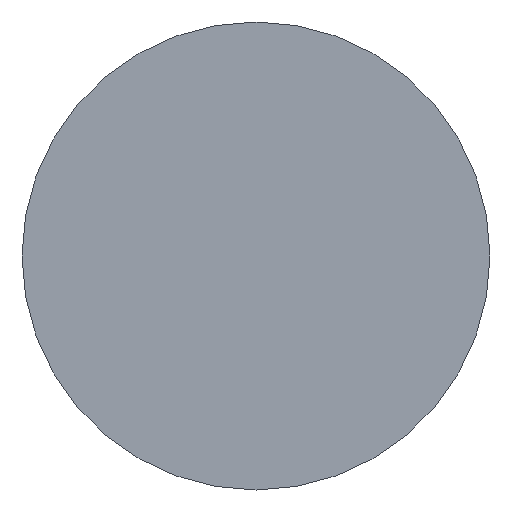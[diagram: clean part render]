
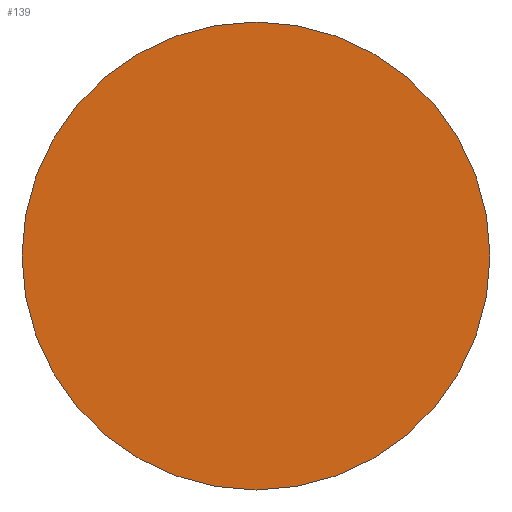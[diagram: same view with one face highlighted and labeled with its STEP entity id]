
A CAD part, left-side view. The second image highlights one B-rep face of the part: STEP entity #139.
In plain terms, the highlighted planar face has unit normal (-1, 0, 0).
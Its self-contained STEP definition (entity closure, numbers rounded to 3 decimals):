
#31 = CYLINDRICAL_SURFACE('',#32,1.9);
#32 = AXIS2_PLACEMENT_3D('',#33,#34,#35);
#33 = CARTESIAN_POINT('',(-54.1,28.,244.5));
#34 = DIRECTION('',(1.,0.,0.));
#35 = DIRECTION('',(0.,0.,1.));
#56 = VERTEX_POINT('',#57);
#57 = CARTESIAN_POINT('',(-54.1,28.,242.6));
#77 = EDGE_CURVE('',#56,#56,#78,.T.);
#78 = SURFACE_CURVE('',#79,(#84,#91),.PCURVE_S1.);
#79 = CIRCLE('',#80,1.9);
#80 = AXIS2_PLACEMENT_3D('',#81,#82,#83);
#81 = CARTESIAN_POINT('',(-54.1,28.,244.5));
#82 = DIRECTION('',(1.,-0.,0.));
#83 = DIRECTION('',(0.,0.,-1.));
#84 = PCURVE('',#31,#85);
#85 = DEFINITIONAL_REPRESENTATION('',(#86),#90);
#86 = LINE('',#87,#88);
#87 = CARTESIAN_POINT('',(3.142,0.));
#88 = VECTOR('',#89,1.);
#89 = DIRECTION('',(1.,0.));
#90 = ( GEOMETRIC_REPRESENTATION_CONTEXT(2) 
PARAMETRIC_REPRESENTATION_CONTEXT() REPRESENTATION_CONTEXT('2D SPACE',''
  ) );
#91 = PCURVE('',#92,#97);
#92 = PLANE('',#93);
#93 = AXIS2_PLACEMENT_3D('',#94,#95,#96);
#94 = CARTESIAN_POINT('',(-54.1,28.,244.5));
#95 = DIRECTION('',(1.,0.,0.));
#96 = DIRECTION('',(0.,0.,1.));
#97 = DEFINITIONAL_REPRESENTATION('',(#98),#102);
#98 = CIRCLE('',#99,1.9);
#99 = AXIS2_PLACEMENT_2D('',#100,#101);
#100 = CARTESIAN_POINT('',(0.,0.));
#101 = DIRECTION('',(-1.,0.));
#102 = ( GEOMETRIC_REPRESENTATION_CONTEXT(2) 
PARAMETRIC_REPRESENTATION_CONTEXT() REPRESENTATION_CONTEXT('2D SPACE',''
  ) );
#139 = ADVANCED_FACE('',(#140),#92,.F.);
#140 = FACE_BOUND('',#141,.T.);
#141 = EDGE_LOOP('',(#142));
#142 = ORIENTED_EDGE('',*,*,#77,.F.);
